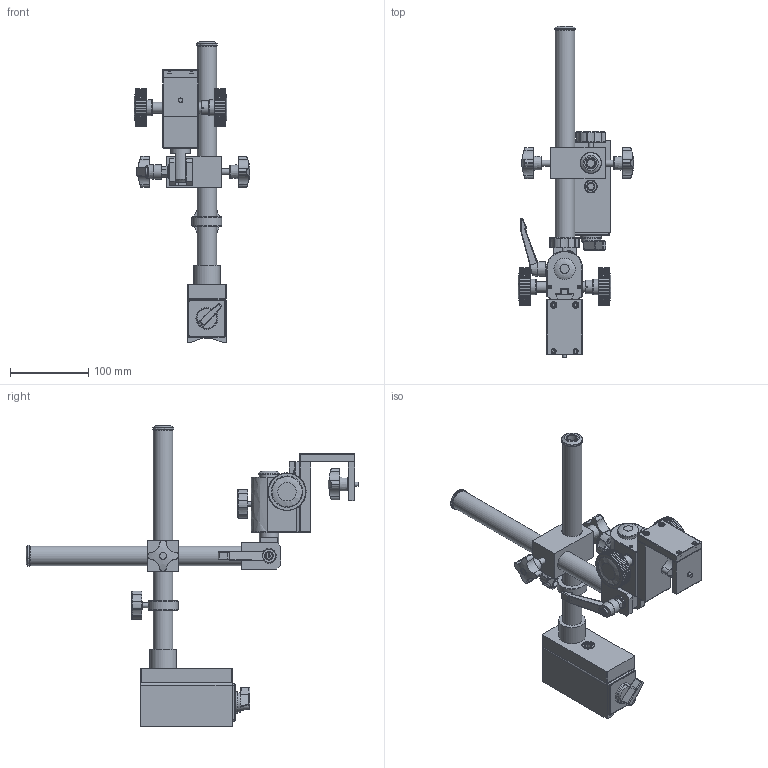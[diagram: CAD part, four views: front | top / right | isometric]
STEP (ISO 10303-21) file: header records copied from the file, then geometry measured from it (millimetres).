
FILE_DESCRIPTION(('STEP AP214'),'1');
FILE_NAME('GR-STD9-MG.stp','2024-09-20T04:59:54',(' '),(' '),'Spatial InterOp 3D',' ',' ');
FILE_SCHEMA(('AUTOMOTIVE_DESIGN { 1 0 10303 214 1 1 1 1 }'));
Length unit declared in the file: metre
Products named in the file (5): GR-STD9-MG; Component1; Component2; Component3; Component4
Assembly tree (4 placements, depth 2):
  GR-STD9-MG
    Component1
    Component2
    Component3
    Component4
Bounding box: 147.11 x 423.48 x 383.2 mm (x, y, z)
Volume: 1094218.6 mm3; surface area: 280628 mm2
Topology: 10 solids, 15 shells, 2815 faces, 6739 edges, 3970 vertices
Faces by surface type: plane 1828, cylinder 703, bspline 156, torus 63, cone 50, sphere 15
Full cylindrical faces by diameter (mm): 1.5 x4, 3.9 x2, 4 x6, 4.25 x1, 5 x3, 5.1 x2, 5.6 x2, 5.8 x1, 6 x2, 6.4 x2, 6.5 x1, 6.9 x3, 7 x2, 8 x4, 8.3 x1, 8.5 x2, 9.3 x1, 9.8 x3, 9.9 x2, 10 x3, 10.5 x1, 11 x1, 11.7 x4, 12.1 x1, 12.4 x1, 12.9 x1, 13.1 x1, 13.9 x1, 14 x2, 14.5 x1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
Entity records: 184713 total; most frequent: CARTESIAN_POINT 66196, DIRECTION 13309, ORIENTED_EDGE 12876, STYLED_ITEM 9262, PRESENTATION_STYLE_ASSIGNMENT 9262, COLOUR_RGB 9262, EDGE_CURVE 6438, CURVE_STYLE 6437
